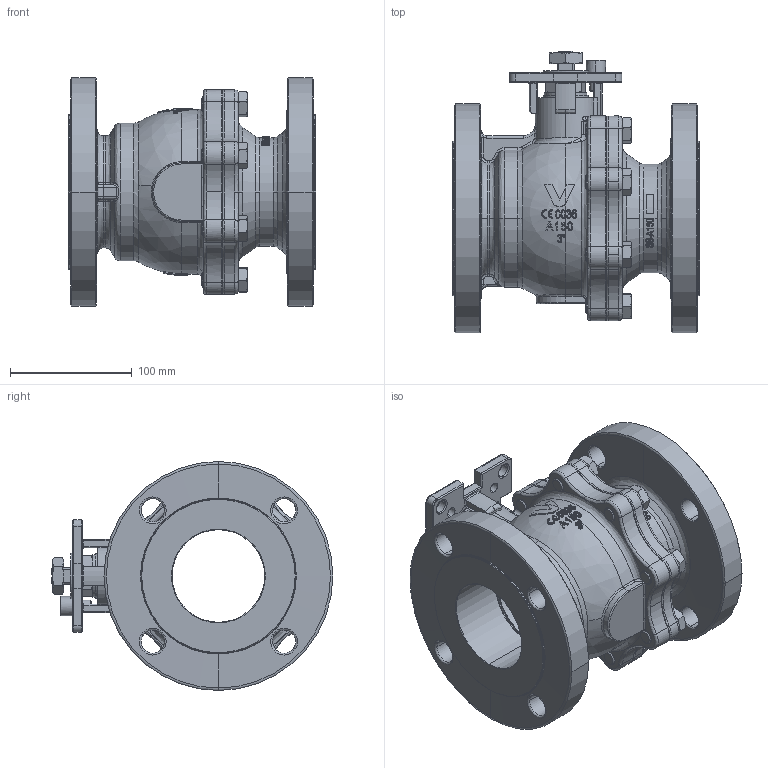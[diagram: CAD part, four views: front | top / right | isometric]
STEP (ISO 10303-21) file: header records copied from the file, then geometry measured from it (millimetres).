
FILE_DESCRIPTION (( 'STEP AP203' ), '1' );
FILE_NAME ('C2FF150DM-24.STEP', '2019-11-11T22:13:17', ( '' ), ( '' ), 'SwSTEP 2.0', 'SolidWorks 2017', '' );
FILE_SCHEMA (( 'CONFIG_CONTROL_DESIGN' ));
Products named in the file (2): C2FF150DM-24
Bounding box: 203 x 231.39 x 188 mm (x, y, z)
Volume: 2308649.1 mm3; surface area: 399444.1 mm2
Topology: 19 solids, 19 shells, 1575 faces, 4025 edges, 2509 vertices
Faces by surface type: bspline 536, cylinder 383, plane 336, cone 284, sphere 36
Entity records: 101945 total; most frequent: CARTESIAN_POINT 68105, ORIENTED_EDGE 7974, DIRECTION 5900, EDGE_CURVE 3987, VERTEX_POINT 2494, AXIS2_PLACEMENT_3D 2418, EDGE_LOOP 1703, FACE_OUTER_BOUND 1575
